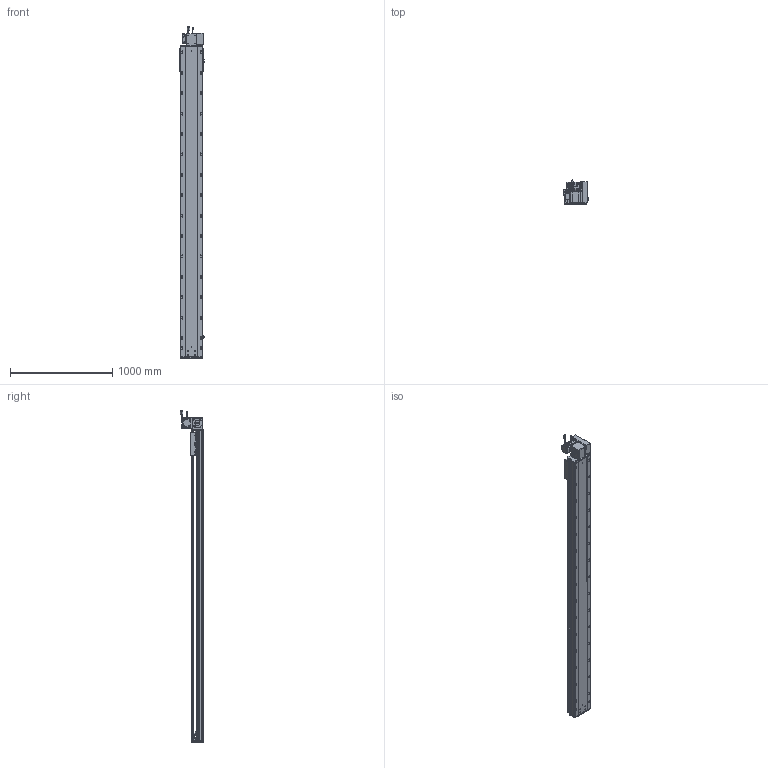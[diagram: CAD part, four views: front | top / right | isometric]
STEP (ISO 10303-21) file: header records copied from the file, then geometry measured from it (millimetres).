
FILE_DESCRIPTION (( 'STEP AP203' ), '1' );
FILE_NAME ('RY220-T-300-UR.SLDASM_2700.step', '2022-07-25T08:45:43', ( '' ), ( '' ), 'SwSTEP 2.0', 'SolidWorks 2016', '' );
FILE_SCHEMA (( 'CONFIG_CONTROL_DESIGN' ));
Length unit declared in the file: millimetre
Products named in the file (14): 覜茼ん672; RY220-T-蛌殏萇儂假蚾啣(750W); RY220-同步轮副支撑座6304×2; 滅袉蝶18-15; RY220-俋离672覜茼んえ; 怢湛750W_ECMA-CX0807ES; 110A-T-肮祭謫釱傷裔; RY220-T-300-奻裔啣_2700; RY220-T菁釱-300_2700; RY220翋肮祭謫釱; RY220-T-300-UR.SLDASM_2700; RY220-T-湍謫欶(鍼踢); RY220翋肮祭謫裔啣; RY220圉猾敕々湍臏賑輸
Assembly tree (18 placements, depth 2):
  RY220-T-300-UR.SLDASM_2700
    RY220-T菁釱-300_2700
    RY220翋肮祭謫釱
    覜茼ん672  x3
    RY220圉猾敕々湍臏賑輸
    RY220-T-300-奻裔啣_2700
    RY220-俋离672覜茼んえ
    滅袉蝶18-15  x3
    RY220翋肮祭謫裔啣  x2
    110A-T-肮祭謫釱傷裔
    怢湛750W_ECMA-CX0807ES
    RY220-T-湍謫欶(鍼踢)
    RY220-T-蛌殏萇儂假蚾啣(750W)
    RY220-同步轮副支撑座6304×2
Bounding box: 238.7 x 231.74 x 3253.27 mm (x, y, z)
Volume: 23260264.3 mm3; surface area: 7166652.2 mm2
Topology: 19 solids, 19 shells, 2974 faces, 8227 edges, 5158 vertices
Faces by surface type: cylinder 1462, plane 1069, cone 361, bspline 56, sphere 16, torus 10
Entity records: 99203 total; most frequent: CARTESIAN_POINT 28019, ORIENTED_EDGE 14714, DIRECTION 14184, EDGE_CURVE 7357, AXIS2_PLACEMENT_3D 5112, VERTEX_POINT 4782, LINE 3960, VECTOR 3960
